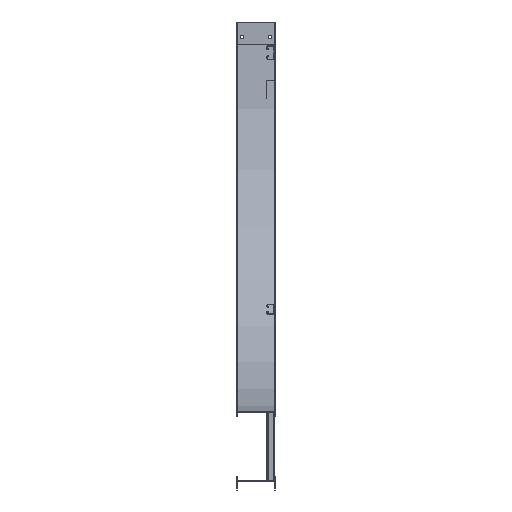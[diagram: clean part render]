
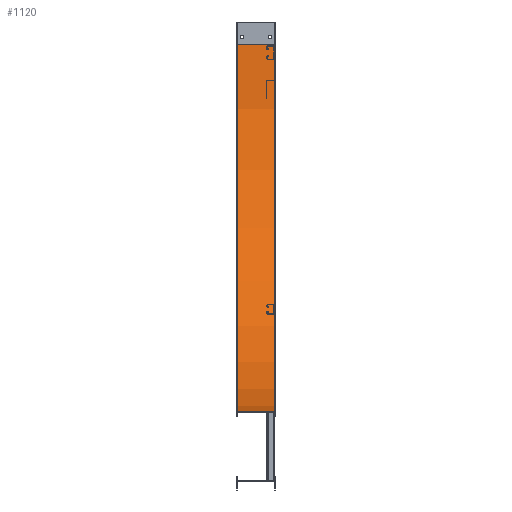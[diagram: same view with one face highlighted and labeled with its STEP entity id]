
A CAD part, left-side view. The second image highlights one B-rep face of the part: STEP entity #1120.
In plain terms, the highlighted cylindrical face has radius 1219.2 mm (diameter 2438.4 mm), a partial arc.
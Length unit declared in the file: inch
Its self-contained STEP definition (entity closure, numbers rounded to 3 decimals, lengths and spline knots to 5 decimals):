
#157=CARTESIAN_POINT('',(4.995,-48.,3.));
#158=DIRECTION('',(1.,0.,0.));
#159=DIRECTION('',(0.,1.,0.));
#160=AXIS2_PLACEMENT_3D('',#157,#158,#159);
#350=DIRECTION('',(1.,0.,0.));
#351=VECTOR('',#350,4.91);
#352=CARTESIAN_POINT('',(0.085,-48.,51.));
#353=LINE('',#352,#351);
#390=DIRECTION('',(1.,0.,0.));
#391=VECTOR('',#390,4.91);
#392=CARTESIAN_POINT('',(0.085,0.,3.));
#393=LINE('',#392,#391);
#394=CARTESIAN_POINT('',(0.085,-48.,3.));
#395=DIRECTION('',(1.,0.,0.));
#396=DIRECTION('',(0.,1.,0.));
#397=AXIS2_PLACEMENT_3D('',#394,#395,#396);
#521=CARTESIAN_POINT('',(0.085,0.,3.));
#522=CARTESIAN_POINT('',(4.995,0.,3.));
#523=VERTEX_POINT('',#521);
#524=VERTEX_POINT('',#522);
#545=CARTESIAN_POINT('',(0.085,-48.,51.));
#546=CARTESIAN_POINT('',(4.995,-48.,51.));
#547=VERTEX_POINT('',#545);
#548=VERTEX_POINT('',#546);
#1109=CARTESIAN_POINT('',(-1.,-48.,3.));
#1110=DIRECTION('',(1.,0.,0.));
#1111=DIRECTION('',(0.,-1.,0.));
#1112=AXIS2_PLACEMENT_3D('',#1109,#1110,#1111);
#1113=CYLINDRICAL_SURFACE('',#1112,48.);
#1114=ORIENTED_EDGE('',*,*,#894,.F.);
#1115=ORIENTED_EDGE('',*,*,#935,.T.);
#1116=ORIENTED_EDGE('',*,*,#1082,.T.);
#1117=ORIENTED_EDGE('',*,*,#872,.F.);
#1118=EDGE_LOOP('',(#1114,#1115,#1116,#1117));
#1119=FACE_OUTER_BOUND('',#1118,.F.);
#1120=ADVANCED_FACE('',(#1119),#1113,.F.);
#161=CIRCLE('',#160,48.);
#398=CIRCLE('',#397,48.);
#872=EDGE_CURVE('',#524,#548,#161,.T.);
#894=EDGE_CURVE('',#523,#524,#393,.T.);
#935=EDGE_CURVE('',#523,#547,#398,.T.);
#1082=EDGE_CURVE('',#547,#548,#353,.T.);
